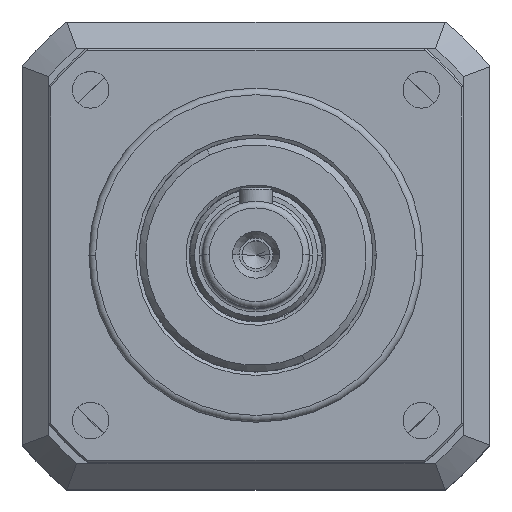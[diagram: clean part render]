
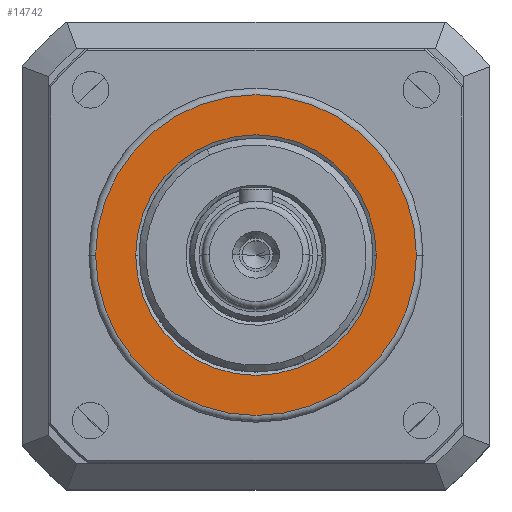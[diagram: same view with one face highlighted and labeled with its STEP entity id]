
A CAD part, top view. The second image highlights one B-rep face of the part: STEP entity #14742.
In plain terms, the highlighted planar face has unit normal (0, 0, 1).
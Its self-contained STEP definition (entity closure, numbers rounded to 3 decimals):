
#835 = ORIENTED_EDGE ( 'NONE', *, *, #19291, .T. ) ;
#1985 = VERTEX_POINT ( 'NONE', #3566 ) ;
#2147 = ORIENTED_EDGE ( 'NONE', *, *, #16918, .T. ) ;
#2817 = CIRCLE ( 'NONE', #5537, 18. ) ;
#3412 = AXIS2_PLACEMENT_3D ( 'NONE', #8882, #10711, #7287 ) ;
#3546 = VERTEX_POINT ( 'NONE', #19225 ) ;
#3566 = CARTESIAN_POINT ( 'NONE',  ( -18., 0., 7. ) ) ;
#4233 = DIRECTION ( 'NONE',  ( 1., 0., 0. ) ) ;
#4342 = CARTESIAN_POINT ( 'NONE',  ( 0., 0., 7. ) ) ;
#4566 = AXIS2_PLACEMENT_3D ( 'NONE', #16159, #14655, #12643 ) ;
#5537 = AXIS2_PLACEMENT_3D ( 'NONE', #4342, #20668, #15880 ) ;
#5824 = DIRECTION ( 'NONE',  ( 0., 0., -1. ) ) ;
#6056 = ORIENTED_EDGE ( 'NONE', *, *, #10303, .T. ) ;
#6829 = DIRECTION ( 'NONE',  ( 1., 0., 0. ) ) ;
#6965 = CIRCLE ( 'NONE', #7644, 24. ) ;
#7176 = PLANE ( 'NONE',  #3412 ) ;
#7287 = DIRECTION ( 'NONE',  ( 1., 0., 0. ) ) ;
#7644 = AXIS2_PLACEMENT_3D ( 'NONE', #11971, #8658, #6829 ) ;
#8658 = DIRECTION ( 'NONE',  ( 0., 0., 1. ) ) ;
#8666 = CIRCLE ( 'NONE', #4566, 24. ) ;
#8882 = CARTESIAN_POINT ( 'NONE',  ( 0., 0., 7. ) ) ;
#8970 = CARTESIAN_POINT ( 'NONE',  ( -24., 0., 7. ) ) ;
#10303 = EDGE_CURVE ( 'NONE', #10926, #19799, #6965, .T. ) ;
#10711 = DIRECTION ( 'NONE',  ( 0., 0., 1. ) ) ;
#10926 = VERTEX_POINT ( 'NONE', #17142 ) ;
#10945 = CIRCLE ( 'NONE', #18439, 18. ) ;
#11971 = CARTESIAN_POINT ( 'NONE',  ( 0., 0., 7. ) ) ;
#12643 = DIRECTION ( 'NONE',  ( 1., 0., 0. ) ) ;
#12862 = EDGE_CURVE ( 'NONE', #1985, #3546, #10945, .T. ) ;
#14056 = CARTESIAN_POINT ( 'NONE',  ( 0., 0., 7. ) ) ;
#14655 = DIRECTION ( 'NONE',  ( 0., 0., 1. ) ) ;
#14742 = ADVANCED_FACE ( 'NONE', ( #15609, #17207 ), #7176, .T. ) ;
#15609 = FACE_BOUND ( 'NONE', #15615, .T. ) ;
#15615 = EDGE_LOOP ( 'NONE', ( #2147, #16334 ) ) ;
#15880 = DIRECTION ( 'NONE',  ( 1., 0., 0. ) ) ;
#16159 = CARTESIAN_POINT ( 'NONE',  ( 0., 0., 7. ) ) ;
#16334 = ORIENTED_EDGE ( 'NONE', *, *, #12862, .T. ) ;
#16918 = EDGE_CURVE ( 'NONE', #3546, #1985, #2817, .T. ) ;
#17142 = CARTESIAN_POINT ( 'NONE',  ( 24., 0., 7. ) ) ;
#17207 = FACE_OUTER_BOUND ( 'NONE', #20288, .T. ) ;
#18439 = AXIS2_PLACEMENT_3D ( 'NONE', #14056, #5824, #4233 ) ;
#19225 = CARTESIAN_POINT ( 'NONE',  ( 18., 0., 7. ) ) ;
#19291 = EDGE_CURVE ( 'NONE', #19799, #10926, #8666, .T. ) ;
#19799 = VERTEX_POINT ( 'NONE', #8970 ) ;
#20288 = EDGE_LOOP ( 'NONE', ( #6056, #835 ) ) ;
#20668 = DIRECTION ( 'NONE',  ( 0., 0., -1. ) ) ;
